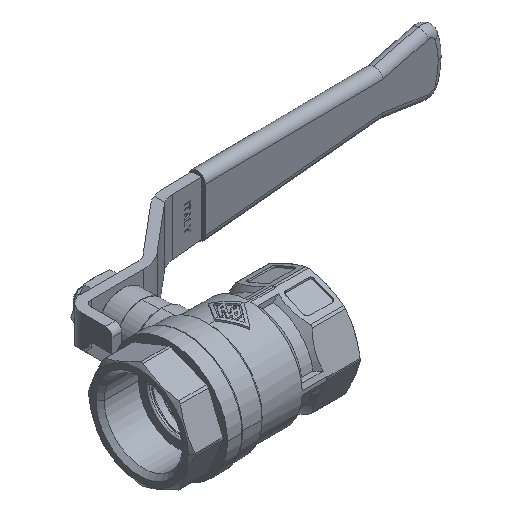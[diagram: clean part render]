
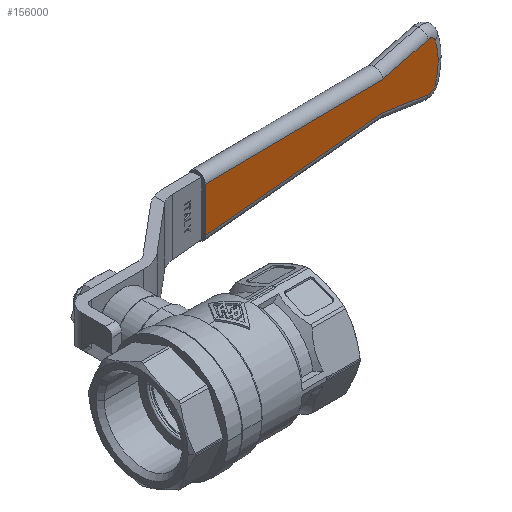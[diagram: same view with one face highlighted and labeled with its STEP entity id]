
A CAD part, isometric view. The second image highlights one B-rep face of the part: STEP entity #156000.
In plain terms, the highlighted planar face has unit normal (0.052, -0.999, 0) as drawn and (-0.052, -0.999, 0) by its records, which use the part's own axes.
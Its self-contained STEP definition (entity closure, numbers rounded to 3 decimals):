
#23220=CARTESIAN_POINT('',(-115.625,51.765,
-5.472));
#23230=DIRECTION('',(0.052,0.999,
0.));
#23240=DIRECTION('',(-0.999,0.052,
0.));
#23250=AXIS2_PLACEMENT_3D('',#23220,#23230,#23240);
#23260=CIRCLE('',#23250,2.);
#23270=CARTESIAN_POINT('',(-115.239,51.745,
-7.435));
#23280=VERTEX_POINT('',#23270);
#23290=CARTESIAN_POINT('',(-117.509,51.864,
-6.136));
#23300=VERTEX_POINT('',#23290);
#23310=EDGE_CURVE('',#23280,#23300,#23260,.T.);
#62530=CARTESIAN_POINT('',(-100.324,50.963,
-4.494));
#62540=VERTEX_POINT('',#62530);
#62590=CARTESIAN_POINT('',(-0.131,45.712,
-8.711));
#62600=DIRECTION('',(0.998,-0.052,
-0.042));
#62610=VECTOR('',#62600,1.);
#62620=LINE('',#62590,#62610);
#62630=CARTESIAN_POINT('',(-42.,47.907,
-6.949));
#62640=VERTEX_POINT('',#62630);
#62650=EDGE_CURVE('',#62540,#62640,#62620,.T.);
#86740=CARTESIAN_POINT('',(-0.131,45.712,
8.711));
#86750=DIRECTION('',(-0.998,0.052,
-0.042));
#86760=VECTOR('',#86750,1.);
#86770=LINE('',#86740,#86760);
#86780=CARTESIAN_POINT('',(-42.,47.907,
6.949));
#86790=VERTEX_POINT('',#86780);
#86800=CARTESIAN_POINT('',(-100.324,50.963,
4.494));
#86810=VERTEX_POINT('',#86800);
#86820=EDGE_CURVE('',#86790,#86810,#86770,.T.);
#90310=CARTESIAN_POINT('',(-0.131,45.712,
15.262));
#90320=DIRECTION('',(-0.98,0.051,
-0.193));
#90330=VECTOR('',#90320,1.);
#90340=LINE('',#90310,#90330);
#90350=EDGE_CURVE('',#62540,#23280,#90340,.T.);
#145810=CARTESIAN_POINT('',(-115.625,51.765,
5.472));
#145820=DIRECTION('',(0.052,0.999,
0.));
#145830=DIRECTION('',(-0.999,0.052,
0.));
#145840=AXIS2_PLACEMENT_3D('',#145810,#145820,#145830);
#145850=CIRCLE('',#145840,2.);
#145860=CARTESIAN_POINT('',(-117.509,51.864,
6.136));
#145870=VERTEX_POINT('',#145860);
#145880=CARTESIAN_POINT('',(-115.239,51.745,
7.435));
#145890=VERTEX_POINT('',#145880);
#145900=EDGE_CURVE('',#145870,#145890,#145850,.T.);
#155650=CARTESIAN_POINT('',(-42.,47.907,
0.));
#155660=DIRECTION('',(-0.052,-0.999,
0.));
#155670=DIRECTION('',(0.999,-0.052,
0.));
#155680=AXIS2_PLACEMENT_3D('',#155650,#155660,#155670);
#155690=PLANE('',#155680);
#155700=ORIENTED_EDGE('',*,*,#62650,.T.);
#155710=ORIENTED_EDGE('',*,*,#90350,.F.);
#155720=ORIENTED_EDGE('',*,*,#23310,.F.);
#155730=CARTESIAN_POINT('',(-100.08,50.951,
0.));
#155740=DIRECTION('',(0.052,0.999,
0.));
#155750=DIRECTION('',(-0.999,0.052,
0.));
#155760=AXIS2_PLACEMENT_3D('',#155730,#155740,#155750);
#155770=CIRCLE('',#155760,18.5);
#155780=CARTESIAN_POINT('',(-118.555,51.919,
0.));
#155790=VERTEX_POINT('',#155780);
#155800=EDGE_CURVE('',#23300,#155790,#155770,.T.);
#155810=ORIENTED_EDGE('',*,*,#155800,.F.);
#155820=EDGE_CURVE('',#155790,#145870,#155770,.T.);
#155830=ORIENTED_EDGE('',*,*,#155820,.F.);
#155840=ORIENTED_EDGE('',*,*,#145900,.F.);
#155850=CARTESIAN_POINT('',(-0.131,45.712,
-15.262));
#155860=DIRECTION('',(-0.98,0.051,
0.193));
#155870=VECTOR('',#155860,1.);
#155880=LINE('',#155850,#155870);
#155890=EDGE_CURVE('',#86810,#145890,#155880,.T.);
#155900=ORIENTED_EDGE('',*,*,#155890,.T.);
#155910=ORIENTED_EDGE('',*,*,#86820,.T.);
#155920=CARTESIAN_POINT('',(-42.,47.907,
0.));
#155930=DIRECTION('',(0.,0.,-1.));
#155940=VECTOR('',#155930,1.);
#155950=LINE('',#155920,#155940);
#155960=EDGE_CURVE('',#86790,#62640,#155950,.T.);
#155970=ORIENTED_EDGE('',*,*,#155960,.F.);
#155980=EDGE_LOOP('',(#155970,#155910,#155900,#155840,#155830,#155810,
#155720,#155710,#155700));
#155990=FACE_OUTER_BOUND('',#155980,.T.);
#156000=ADVANCED_FACE('',(#155990),#155690,.T.);
